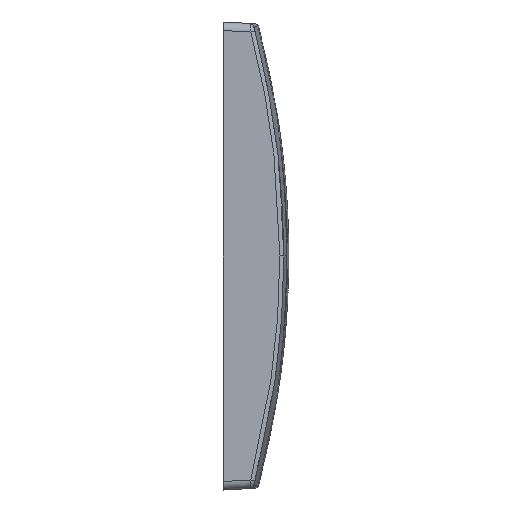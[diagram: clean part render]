
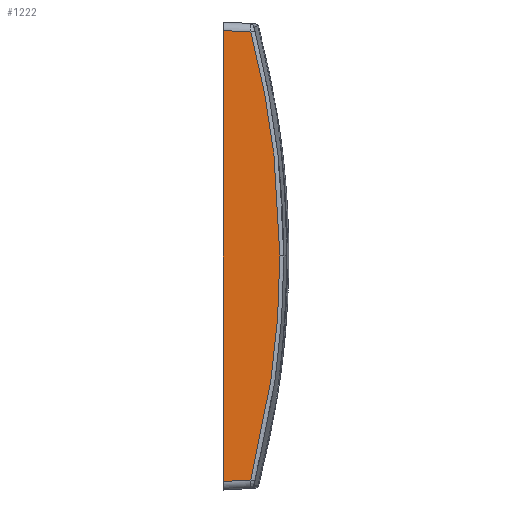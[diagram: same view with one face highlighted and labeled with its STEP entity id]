
A CAD part, left-side view. The second image highlights one B-rep face of the part: STEP entity #1222.
In plain terms, the highlighted planar face has unit normal (-0.999, -0.052, 0).
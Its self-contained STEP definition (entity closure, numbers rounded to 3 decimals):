
#33=PLANE('',#1336);
#51=LINE('',#3949,#86);
#67=LINE('',#4921,#102);
#68=LINE('',#4923,#103);
#86=VECTOR('',#1444,1.);
#102=VECTOR('',#1524,10.);
#103=VECTOR('',#1525,10.);
#152=FACE_OUTER_BOUND('',#216,.T.);
#216=EDGE_LOOP('',(#974,#975,#976,#977,#978));
#374=B_SPLINE_CURVE_WITH_KNOTS('',3,(#4925,#4926,#4927,#4928,#4929,#4930,
#4931,#4932,#4933,#4934,#4935,#4936,#4937,#4938,#4939,#4940,#4941,#4942,
#4943,#4944,#4945,#4946,#4947,#4948,#4949,#4950,#4951,#4952,#4953,#4954,
#4955),.UNSPECIFIED.,.F.,.F.,(4,3,3,3,3,3,3,3,3,3,4),(46.705,59.037,
71.21,83.298,95.262,102.902,114.724,
126.42,138.049,149.575,159.099),
 .UNSPECIFIED.);
#375=B_SPLINE_CURVE_WITH_KNOTS('',5,(#4956,#4957,#4958,#4959,#4960,#4961,
#4962,#4963,#4964,#4965,#4966,#4967,#4968,#4969,#4970,#4971,#4972,#4973),
 .UNSPECIFIED.,.F.,.F.,(6,3,3,3,3,6),(103.209,110.234,117.258,
131.307,159.406,215.602),.UNSPECIFIED.);
#462=VERTEX_POINT('',#3947);
#463=VERTEX_POINT('',#3948);
#506=VERTEX_POINT('',#4920);
#507=VERTEX_POINT('',#4922);
#508=VERTEX_POINT('',#4924);
#613=EDGE_CURVE('',#462,#463,#51,.F.);
#673=EDGE_CURVE('',#462,#506,#67,.T.);
#674=EDGE_CURVE('',#507,#463,#68,.F.);
#675=EDGE_CURVE('',#508,#507,#374,.F.);
#676=EDGE_CURVE('',#506,#508,#375,.F.);
#974=ORIENTED_EDGE('',*,*,#673,.F.);
#975=ORIENTED_EDGE('',*,*,#613,.T.);
#976=ORIENTED_EDGE('',*,*,#674,.F.);
#977=ORIENTED_EDGE('',*,*,#675,.F.);
#978=ORIENTED_EDGE('',*,*,#676,.F.);
#1222=ADVANCED_FACE('',(#152),#33,.T.);
#1336=AXIS2_PLACEMENT_3D('',#4919,#1522,#1523);
#1444=DIRECTION('',(0.,0.,1.));
#1522=DIRECTION('center_axis',(-0.999,-0.052,0.));
#1523=DIRECTION('ref_axis',(0.,0.,1.));
#1524=DIRECTION('',(0.052,-0.997,-0.052));
#1525=DIRECTION('',(0.052,-0.997,0.052));
#3947=CARTESIAN_POINT('',(-123.,0.,79.004));
#3948=CARTESIAN_POINT('',(-123.,0.,-79.004));
#3949=CARTESIAN_POINT('',(-123.,0.,0.));
#4919=CARTESIAN_POINT('Origin',(-123.,0.,0.));
#4920=CARTESIAN_POINT('',(-122.492,-9.702,78.496));
#4921=CARTESIAN_POINT('',(-123.,0.,79.004));
#4922=CARTESIAN_POINT('',(-122.492,-9.702,-78.496));
#4923=CARTESIAN_POINT('',(-123.,0.,-79.004));
#4924=CARTESIAN_POINT('',(-121.96,-19.85,0.));
#4925=CARTESIAN_POINT('Ctrl Pts',(-122.492,-9.702,-78.496));
#4926=CARTESIAN_POINT('Ctrl Pts',(-122.453,-10.436,-75.655));
#4927=CARTESIAN_POINT('Ctrl Pts',(-122.417,-11.132,-72.81));
#4928=CARTESIAN_POINT('Ctrl Pts',(-122.382,-11.789,-69.96));
#4929=CARTESIAN_POINT('Ctrl Pts',(-122.348,-12.437,-67.147));
#4930=CARTESIAN_POINT('Ctrl Pts',(-122.316,-13.047,-64.33));
#4931=CARTESIAN_POINT('Ctrl Pts',(-122.286,-13.619,-61.509));
#4932=CARTESIAN_POINT('Ctrl Pts',(-122.257,-14.186,-58.708));
#4933=CARTESIAN_POINT('Ctrl Pts',(-122.229,-14.716,-55.903));
#4934=CARTESIAN_POINT('Ctrl Pts',(-122.203,-15.207,-53.094));
#4935=CARTESIAN_POINT('Ctrl Pts',(-122.178,-15.693,-50.315));
#4936=CARTESIAN_POINT('Ctrl Pts',(-122.154,-16.142,-47.532));
#4937=CARTESIAN_POINT('Ctrl Pts',(-122.133,-16.552,-44.746));
#4938=CARTESIAN_POINT('Ctrl Pts',(-122.119,-16.814,-42.968));
#4939=CARTESIAN_POINT('Ctrl Pts',(-122.106,-17.061,-41.188));
#4940=CARTESIAN_POINT('Ctrl Pts',(-122.094,-17.292,-39.407));
#4941=CARTESIAN_POINT('Ctrl Pts',(-122.075,-17.65,-36.651));
#4942=CARTESIAN_POINT('Ctrl Pts',(-122.058,-17.97,-33.893));
#4943=CARTESIAN_POINT('Ctrl Pts',(-122.043,-18.254,-31.133));
#4944=CARTESIAN_POINT('Ctrl Pts',(-122.029,-18.534,-28.402));
#4945=CARTESIAN_POINT('Ctrl Pts',(-122.016,-18.777,-25.67));
#4946=CARTESIAN_POINT('Ctrl Pts',(-122.005,-18.983,-22.936));
#4947=CARTESIAN_POINT('Ctrl Pts',(-121.994,-19.189,-20.218));
#4948=CARTESIAN_POINT('Ctrl Pts',(-121.985,-19.358,-17.499));
#4949=CARTESIAN_POINT('Ctrl Pts',(-121.979,-19.49,-14.778));
#4950=CARTESIAN_POINT('Ctrl Pts',(-121.972,-19.622,-12.082));
#4951=CARTESIAN_POINT('Ctrl Pts',(-121.967,-19.717,-9.385));
#4952=CARTESIAN_POINT('Ctrl Pts',(-121.964,-19.776,-6.687));
#4953=CARTESIAN_POINT('Ctrl Pts',(-121.961,-19.825,-4.458));
#4954=CARTESIAN_POINT('Ctrl Pts',(-121.96,-19.85,-2.229));
#4955=CARTESIAN_POINT('Ctrl Pts',(-121.96,-19.85,0.));
#4956=CARTESIAN_POINT('Ctrl Pts',(-121.96,-19.85,0.));
#4957=CARTESIAN_POINT('Ctrl Pts',(-121.96,-19.85,0.989));
#4958=CARTESIAN_POINT('Ctrl Pts',(-121.96,-19.846,1.972));
#4959=CARTESIAN_POINT('Ctrl Pts',(-121.96,-19.838,2.961));
#4960=CARTESIAN_POINT('Ctrl Pts',(-121.962,-19.814,4.933));
#4961=CARTESIAN_POINT('Ctrl Pts',(-121.964,-19.774,6.907));
#4962=CARTESIAN_POINT('Ctrl Pts',(-121.965,-19.75,7.893));
#4963=CARTESIAN_POINT('Ctrl Pts',(-121.969,-19.666,10.852));
#4964=CARTESIAN_POINT('Ctrl Pts',(-121.976,-19.545,13.81));
#4965=CARTESIAN_POINT('Ctrl Pts',(-121.981,-19.449,15.782));
#4966=CARTESIAN_POINT('Ctrl Pts',(-121.998,-19.113,21.696));
#4967=CARTESIAN_POINT('Ctrl Pts',(-122.023,-18.633,27.606));
#4968=CARTESIAN_POINT('Ctrl Pts',(-122.044,-18.249,31.543));
#4969=CARTESIAN_POINT('Ctrl Pts',(-122.114,-16.908,43.345));
#4970=CARTESIAN_POINT('Ctrl Pts',(-122.214,-14.999,55.11));
#4971=CARTESIAN_POINT('Ctrl Pts',(-122.294,-13.477,62.933));
#4972=CARTESIAN_POINT('Ctrl Pts',(-122.386,-11.71,70.729));
#4973=CARTESIAN_POINT('Ctrl Pts',(-122.492,-9.702,78.496));
